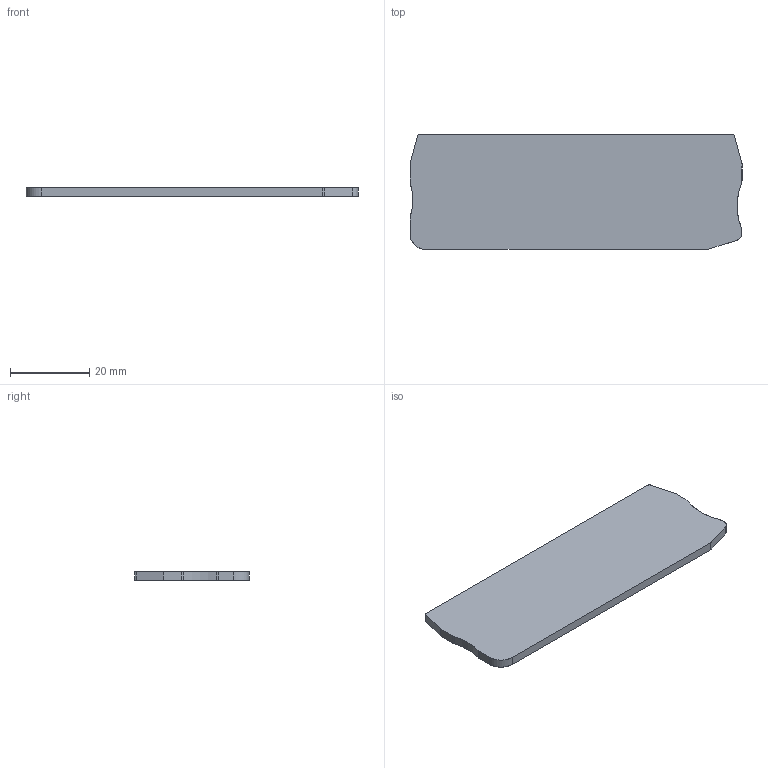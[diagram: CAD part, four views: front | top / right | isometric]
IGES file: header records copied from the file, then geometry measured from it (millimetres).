
Global section: file name: 3038590_d_st25_quattro_mt.igs; native system: OneSpace Designer 3D IGES; preprocessor: 11.50A  18-Jul-2002; date: 20040203.104914; units: millimetre
Bounding box: 84 x 29.05 x 2.2 mm (x, y, z)
Surface area: 5277.1 mm2 (no closed solid volume)
Topology: 0 solids, 0 shells, 24 faces, 182 edges, 182 vertices
Faces by surface type: bspline 24
